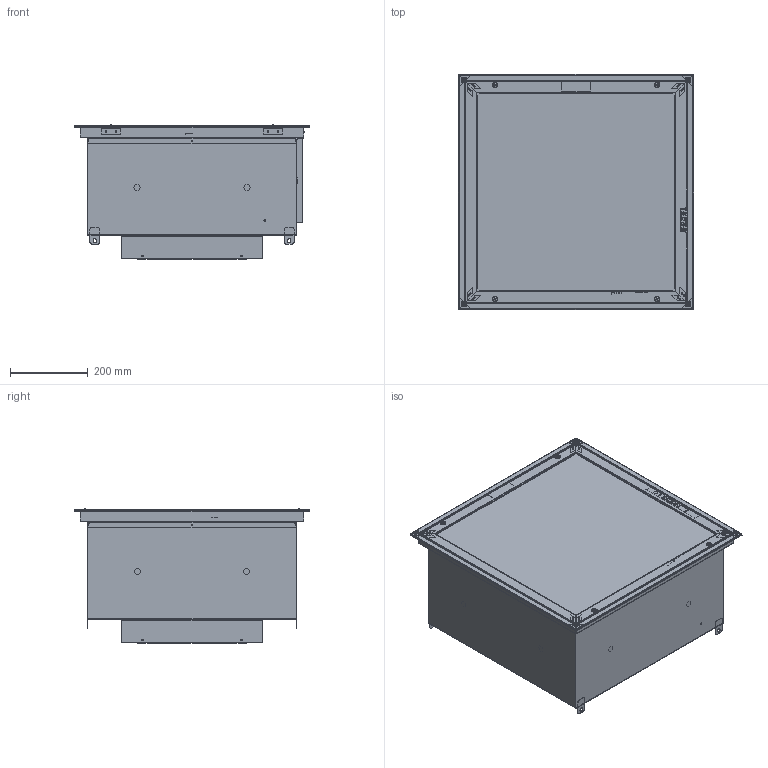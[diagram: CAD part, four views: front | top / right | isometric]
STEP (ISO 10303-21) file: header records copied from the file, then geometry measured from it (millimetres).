
FILE_DESCRIPTION (( 'STEP AP203' ), '1' );
FILE_NAME ('24 x 24_SSLFHFD-FFU_NO LED.STEP', '2025-09-05T15:50:22', ( '' ), ( '' ), 'SwSTEP 2.0', 'SolidWorks 2024', '' );
FILE_SCHEMA (( 'CONFIG_CONTROL_DESIGN' ));
Length unit declared in the file: inch
Products named in the file (45): 090425-FFUs4STEP_Inlet Ring-SUB_L06; 090425-FFUs4STEP_FP1B20_L06; 090425-FFUs4STEP_P1B1B_L06; 090425-FFUs4STEP_PLENUM-SUB_L06; 090425-FFUs4STEP_H2E12_L06_CLIP, HEPA FILTER, SWING ARM; 090425-FFUs4STEP_X4CP_L06; 090425-FFUs4STEP_FC3E-A2_L06; 090425-FFUs4STEP_X6BE_L06; 090425-FFUs4STEP_H1V18_L06; 090425-FFUs4STEP_X4CM_L06; 090425-FFUs4STEP_H1Z24_L06; 090425-FFUs4STEP_PLASTER-SUB_L06; 090425-FFUs4STEP_FACE-SUB_L06; 090425-FFUs4STEP_FP1B20-A1_L06; 090425-FFUs4STEP_H1N2_L06; 090425-FFUs4STEP_H1B8_L06_NUTSERT, 1_4-20 X .58 SS; HEX BODY; 090425-FFUs4STEP_H1V31_L06_WASHER, TEFLON: 0.50"OD x 0.25"ID x 0.025"th; 090425-FFUs4STEP_FC3E-A1_L06; 090425-FFUs4STEP_H2E5_L06; 090425-FFUs4STEP_FACE Display-SUB_L06; 090425-FFUs4STEP_FC3E-A_L06; 090425-FFUs4STEP_R2C124X24P_L06; 090425-FFUs4STEP_FP1B20-A4_L06; 090425-FFUs4STEP_H2G12_L06; 090425-FFUs4STEP_H1E3_L06; 090425-FFUs4STEP_H2E11_L06_GUIDE, HEPA FILTER, SWING ARM; 090425-FFUs4STEP_H1Z5_L06; 24 x 24_SSLFHFD-FFU_NO LED; 090425-FFUs4STEP_H1E1_L06; 090425-FFUs4STEP_H1F1_L06_1_4 TURN SPRING; 090425-FFUs4STEP_H1E2_L06; 090425-FFUs4STEP_H1C28_L06; 090425-FFUs4STEP_H1Z4_L06; 090425-FFUs4STEP_FC3E-A3_L06; 090425-FFUs4STEP_FP1B20-A2_L06; 090425-FFUs4STEP_H1W37_L06; 090425-FFUs4STEP_R2C1-SUB_L06; 090425-FFUs4STEP_P1B1B-SUB_L06; 090425-FFUs4STEP_FP1B20-A3_L06; 090425-FFUs4STEP_H2E2_L06_WELD CLIP, BOB FRAME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
Assembly tree (84 placements, depth 5):
  24 x 24_SSLFHFD-FFU_NO LED
    090425-FFUs4STEP_PLASTER-SUB_L06
      090425-FFUs4STEP_FC3E-A_L06
        090425-FFUs4STEP_FC3E-A1_L06
        090425-FFUs4STEP_FC3E-A2_L06
        090425-FFUs4STEP_FC3E-A3_L06
        090425-FFUs4STEP_FC3E-A4_L06
        090425-FFUs4STEP_H2E2_L06_WELD CLIP, BOB FRAME  x4
        090425-FFUs4STEP_H2G12_L06  x4
        090425-FFUs4STEP_H1F1_L06_1_4 TURN SPRING  x4
        090425-FFUs4STEP_H2E11_L06_GUIDE, HEPA FILTER, SWING ARM  x4
        090425-FFUs4STEP_H2E12_L06_CLIP, HEPA FILTER, SWING ARM  x4
        090425-FFUs4STEP_H1V31_L06_WASHER, TEFLON: 0.50"OD x 0.25"ID x 0.025"th  x4
        090425-FFUs4STEP_FACE Display-SUB_L06
          090425-FFUs4STEP_X4CM_L06
          090425-FFUs4STEP_H1W37_L06
          090425-FFUs4STEP_H1D11_L06_91020A530  x2
        090425-FFUs4STEP_H1V18_L06
    090425-FFUs4STEP_FACE-SUB_L06
      090425-FFUs4STEP_FP1B20_L06
        090425-FFUs4STEP_FP1B20-A1_L06
        090425-FFUs4STEP_FP1B20-A2_L06
        090425-FFUs4STEP_FP1B20-A3_L06
        090425-FFUs4STEP_FP1B20-A4_L06
        090425-FFUs4STEP_H2E1_L06_WELD CLIP; 40º BEVEL FRAME  x4
        090425-FFUs4STEP_H1E1_L06  x4
        090425-FFUs4STEP_H1E2_L06  x4
        090425-FFUs4STEP_SAFETYCABLEASSEMBLY_L06  x2
          090425-FFUs4STEP_H1N2_L06
          090425-FFUs4STEP_H1E3_L06
        090425-FFUs4STEP_H1Z24_L06
    090425-FFUs4STEP_PERF-SUB_L06
      090425-FFUs4STEP_R2C1-SUB_L06
        090425-FFUs4STEP_R2C124X24P_L06
    090425-FFUs4STEP_PLENUM-SUB_L06
      090425-FFUs4STEP_P1B1B-SUB_L06
        090425-FFUs4STEP_P1B1B_L06
        090425-FFUs4STEP_H2E5_L06  x4
        090425-FFUs4STEP_X6BE_L06
        090425-FFUs4STEP_H1B8_L06_NUTSERT, 1_4-20 X .58 SS; HEX BODY  x8
        090425-FFUs4STEP_Inlet Ring-SUB_L06
          090425-FFUs4STEP_X4CP_L06
          090425-FFUs4STEP_H1C28_L06
        090425-FFUs4STEP_H1Z4_L06
        090425-FFUs4STEP_H1Z5_L06
        090425-FFUs4STEP_H1V18_L06
Bounding box: 603.25 x 603.25 x 344.25 mm (x, y, z)
Volume: 1451861.8 mm3; surface area: 3446359.6 mm2
Topology: 81 solids, 145 shells, 4321 faces, 12322 edges, 8310 vertices
Faces by surface type: plane 2302, cylinder 1501, bspline 248, torus 224, sphere 32, cone 14
Entity records: 123473 total; most frequent: CARTESIAN_POINT 31673, DIRECTION 17347, ORIENTED_EDGE 17102, EDGE_CURVE 9528, VERTEX_POINT 6539, LINE 6105, VECTOR 6105, AXIS2_PLACEMENT_3D 5621
